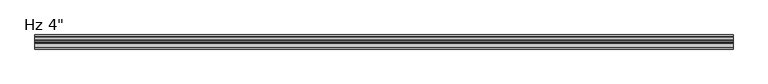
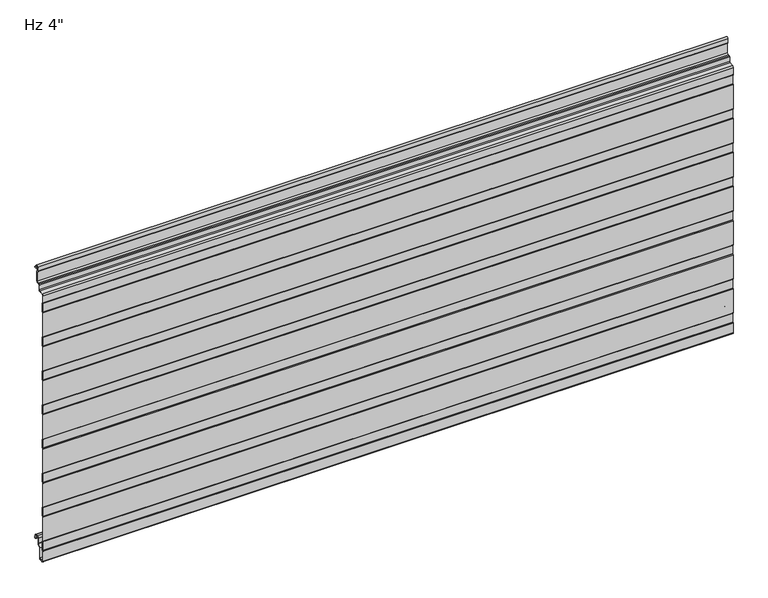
"""IFC4 building model written with IfcOpenShell, lengths in millimetres: plate geometry."""

import ifcopenshell
import ifcopenshell.guid

model = None  # the IFC model being written
_history = None  # IfcOwnerHistory: only IFC2X3 demands one
_inside = {}  # id of a spatial element -> (the spatial element, [elements in it])
_under = {}  # id of a project, library or spatial element -> (it, [spatial elements below it])
_declared = {}  # id of a project -> (the project, [libraries it declares])
_typed = {}  # id of a type object -> (the type object, [elements of that type])
_made_of = {}  # id of a material, layer set ... -> (it, [elements and type objects made of it])


def new_model(schema):
    """Start an empty IFC model of exactly this schema.

    Asked for "IFC4X3", IfcOpenShell would pick the latest addendum, in which some entities
    have other attributes; the version numbers below select the first issue.
    IFC2X3 requires an IfcOwnerHistory on every rooted entity: one is made here for all.
    """
    global model, _history
    if schema == "IFC4X3":
        model = ifcopenshell.file(schema_version=(4, 3, 0, 0))
    else:
        model = ifcopenshell.file(schema=schema)
    _inside.clear()
    _under.clear()
    _declared.clear()
    _typed.clear()
    _made_of.clear()
    _history = None
    if model.schema == "IFC2X3":
        org = make("IfcOrganization", Name="unknown")
        user = make(
            "IfcPersonAndOrganization",
            ThePerson=make("IfcPerson", FamilyName="unknown"),
            TheOrganization=org,
        )
        app = make(
            "IfcApplication",
            ApplicationDeveloper=org,
            Version="unknown",
            ApplicationFullName="unknown",
            ApplicationIdentifier="unknown",
        )
        _history = make(
            "IfcOwnerHistory",
            OwningUser=user,
            OwningApplication=app,
            ChangeAction="ADDED",
            CreationDate=0,
        )
    return model


def make(cls, **values):
    """One entity of the class cls with the attributes given. An attribute that is None is left unset."""
    return model.create_entity(
        cls, **{name: value for name, value in values.items() if value is not None}
    )


def rooted(cls, **values):
    """An entity with a GlobalId (a new one), such as an element, a storey or a relation."""
    return make(cls, GlobalId=ifcopenshell.guid.new(), OwnerHistory=_history, **values)


def si_unit(unit_type, name, prefix=None):
    """IfcSIUnit, for example si_unit("LENGTHUNIT", "METRE", prefix="MILLI")."""
    return make("IfcSIUnit", UnitType=unit_type, Prefix=prefix, Name=name)


def assignment(units):
    """IfcUnitAssignment: the units of a project."""
    return None if units is None else make("IfcUnitAssignment", Units=units)


def point(xyz):
    """IfcCartesianPoint."""
    return None if xyz is None else make("IfcCartesianPoint", Coordinates=xyz)


def direction(xyz):
    """IfcDirection."""
    return None if xyz is None else make("IfcDirection", DirectionRatios=xyz)


def frame(location, z_axis=None, x_axis=None):
    """IfcAxis2Placement3D, a coordinate frame: its origin and axes. An axis left out is left unset."""
    return make(
        "IfcAxis2Placement3D",
        Location=point(location),
        Axis=direction(z_axis),
        RefDirection=direction(x_axis),
    )


def frame_2d(location, x_axis=None):
    """IfcAxis2Placement2D, a coordinate frame in the plane: its origin and x axis."""
    return make(
        "IfcAxis2Placement2D", Location=point(location), RefDirection=direction(x_axis)
    )


def origin():
    """The frame at (0, 0, 0) with its axes left unset."""
    return frame((0.0, 0.0, 0.0))


def place(relative_to, where):
    """IfcLocalPlacement: puts the frame where relative to a parent placement (None: the world)."""
    return make(
        "IfcLocalPlacement", PlacementRelTo=relative_to, RelativePlacement=where
    )


def context(
    kind, dimensions, precision=None, world=None, true_north=None, identifier=None
):
    """IfcGeometricRepresentationContext, for example the 3D "Model" context."""
    return make(
        "IfcGeometricRepresentationContext",
        ContextIdentifier=identifier,
        ContextType=kind,
        CoordinateSpaceDimension=dimensions,
        Precision=precision,
        WorldCoordinateSystem=world,
        TrueNorth=true_north,
    )


def project(units=None, contexts=None):
    """IfcProject with its units and contexts."""
    return rooted(
        "IfcProject",
        Name="project",
        RepresentationContexts=contexts,
        UnitsInContext=assignment(units),
    )


def spatial(cls, under=None, at=None, **own):
    """A site, building, storey or space (cls), placed at a placement, below another one or the project."""
    s = rooted(cls, ObjectPlacement=at, **own)
    if under is not None:
        _under.setdefault(under.id(), (under, []))[1].append(s)
    return s


def polyline(points):
    """IfcPolyline through the points."""
    return make("IfcPolyline", Points=[point(p) for p in points])


def circle_curve(where, radius):
    """IfcCircle in the frame where."""
    return make("IfcCircle", Position=where, Radius=radius)


def trimmed(basis, trim1, trim2, sense, master):
    """IfcTrimmedCurve: the piece of a basis curve between two trims."""
    return make(
        "IfcTrimmedCurve",
        BasisCurve=basis,
        Trim1=trim1,
        Trim2=trim2,
        SenseAgreement=sense,
        MasterRepresentation=master,
    )


def segment(curve, same_sense, transition):
    """IfcCompositeCurveSegment."""
    return make(
        "IfcCompositeCurveSegment",
        Transition=transition,
        SameSense=same_sense,
        ParentCurve=curve,
    )


def composite_curve(segments, self_intersect=None):
    """IfcCompositeCurve: segments joined end to end."""
    return make("IfcCompositeCurve", Segments=segments, SelfIntersect=self_intersect)


def outline(outer, holes=None, kind="AREA"):
    """IfcArbitraryClosedProfileDef: a profile drawn as a closed curve; with holes, ...WithVoids."""
    if holes is None:
        return make("IfcArbitraryClosedProfileDef", ProfileType=kind, OuterCurve=outer)
    return make(
        "IfcArbitraryProfileDefWithVoids",
        ProfileType=kind,
        OuterCurve=outer,
        InnerCurves=holes,
    )


def extrude(swept, where, along, depth):
    """IfcExtrudedAreaSolid: the profile swept, set in the frame where, extruded along a direction by depth."""
    return make(
        "IfcExtrudedAreaSolid",
        SweptArea=swept,
        Position=where,
        ExtrudedDirection=direction(along),
        Depth=depth,
    )


def shape(context_of_items, identifier, shape_type, items):
    """IfcShapeRepresentation: the items that make up one representation, for example the "Body"."""
    return make(
        "IfcShapeRepresentation",
        ContextOfItems=context_of_items,
        RepresentationIdentifier=identifier,
        RepresentationType=shape_type,
        Items=items,
    )


def source(mapping_origin, context_of_items, identifier, shape_type, items):
    """IfcRepresentationMap: a shape defined once, which mapped items show again and again."""
    return make(
        "IfcRepresentationMap",
        MappingOrigin=mapping_origin,
        MappedRepresentation=shape(context_of_items, identifier, shape_type, items),
    )


def transform(
    local_origin,
    x_axis=None,
    y_axis=None,
    z_axis=None,
    scale=None,
    scale2=None,
    scale3=None,
    uniform=True,
):
    """IfcCartesianTransformationOperator3D, or its non-uniform kind. x_axis, y_axis, z_axis: its Axis1, 2, 3."""
    if uniform:
        return make(
            "IfcCartesianTransformationOperator3D",
            Axis1=direction(x_axis),
            Axis2=direction(y_axis),
            LocalOrigin=point(local_origin),
            Scale=scale,
            Axis3=direction(z_axis),
        )
    return make(
        "IfcCartesianTransformationOperator3DnonUniform",
        Axis1=direction(x_axis),
        Axis2=direction(y_axis),
        LocalOrigin=point(local_origin),
        Scale=scale,
        Axis3=direction(z_axis),
        Scale2=scale2,
        Scale3=scale3,
    )


def mapped(mapping_source, mapping_target):
    """IfcMappedItem: shows the shape of a source again, moved by a transform."""
    return make(
        "IfcMappedItem", MappingSource=mapping_source, MappingTarget=mapping_target
    )


def made_of(thing, what):
    """Note that an element or type object is made of a material, layer set ...; save() writes the relation."""
    if what is not None:
        _made_of.setdefault(what.id(), (what, []))[1].append(thing)
    return thing


def element(
    cls,
    number,
    at=None,
    inside=None,
    cuts=None,
    type_object=None,
    material=None,
    context=None,
    identifier="Body",
    shape_type=None,
    held_by="IfcProductDefinitionShape",
    body=None,
    shapes=None,
    **own,
):
    """One element of the class cls, such as IfcWall. Its Tag is "e" and its number.

    at: its placement. inside: the storey or other place that contains it. cuts: it is an
    opening in that element (IfcRelVoidsElement). A single representation is given by context,
    identifier, shape_type and body (its items); several are given by shapes. held_by: the class
    of the entity that holds the representations. save() writes the other relations.
    """
    e = rooted(cls, Tag="e%d" % number, ObjectPlacement=at, **own)
    if body is not None:
        shapes = [shape(context, identifier, shape_type, body)]
    if shapes is not None:
        e.Representation = make(held_by, Representations=shapes)
    if inside is not None:
        _inside.setdefault(inside.id(), (inside, []))[1].append(e)
    if cuts is not None:
        rooted(
            "IfcRelVoidsElement", RelatingBuildingElement=cuts, RelatedOpeningElement=e
        )
    if type_object is not None:
        _typed.setdefault(type_object.id(), (type_object, []))[1].append(e)
    return made_of(e, material)


def aggregate(whole, parts):
    """IfcRelAggregates: a whole, such as a stair, and the parts it consists of."""
    return rooted("IfcRelAggregates", RelatingObject=whole, RelatedObjects=parts)


def save(model, path):
    """Write the relations noted so far, then the file.

    IfcRelAggregates (storeys below a building ...), IfcRelContainedInSpatialStructure (elements
    in a storey), IfcRelDefinesByType, IfcRelAssociatesMaterial and IfcRelDeclares: one each for
    every whole, place, type object, material and project.
    """
    for whole, parts in _under.values():
        aggregate(whole, parts)
    for where, things in _inside.values():
        rooted(
            "IfcRelContainedInSpatialStructure",
            RelatedElements=things,
            RelatingStructure=where,
        )
    for kind, things in _typed.values():
        rooted("IfcRelDefinesByType", RelatedObjects=things, RelatingType=kind)
    for what, things in _made_of.values():
        rooted("IfcRelAssociatesMaterial", RelatedObjects=things, RelatingMaterial=what)
    for by, libraries in _declared.values():
        rooted("IfcRelDeclares", RelatingContext=by, RelatedDefinitions=libraries)
    model.write(path)


def plate_b8075c91(model_context):
    return source(origin(), model_context, "Body", "SweptSolid", [
        extrude(outline(composite_curve([segment(trimmed(circle_curve(frame_2d((-100.1998717, -10.6415934)), 1.3998661), [point((-101.5997378, -10.6415934))], [point((-101.1324955, -9.5976403))], False, "CARTESIAN"), True, "CONTINUOUS"), segment(polyline([(-101.1324955, -9.5976403), (-100.3997693, -8.8649141), (-100.3997693, 10.0260713), (-101.1327349, 10.7590369)]), True, "CONTINUOUS"), segment(trimmed(circle_curve(frame_2d((-100.2000237, 11.8030877)), 1.3999972), [point((-101.1327349, 10.7590369))], [point((-101.6, 11.810741))], False, "CARTESIAN"), True, "CONTINUOUS"), segment(polyline([(-101.6, 11.810741), (-101.6, 65.5582542)]), True, "CONTINUOUS"), segment(trimmed(circle_curve(frame_2d((-100.2000028, 65.5582542)), 1.3999972), [point((-101.6, 65.5582542))], [point((-101.132714, 66.602305))], False, "CARTESIAN"), True, "CONTINUOUS"), segment(polyline([(-101.132714, 66.602305), (-100.3997693, 67.3352497), (-100.3997693, 86.2259189), (-101.1327349, 86.9588845)]), True, "CONTINUOUS"), segment(trimmed(circle_curve(frame_2d((-100.2000237, 88.0029353)), 1.3999972), [point((-101.1327349, 86.9588845))], [point((-101.6, 88.0105886))], False, "CARTESIAN"), True, "CONTINUOUS"), segment(polyline([(-101.6, 88.0105886), (-101.6, 141.7581018)]), True, "CONTINUOUS"), segment(trimmed(circle_curve(frame_2d((-100.2000028, 141.7581018)), 1.3999972), [point((-101.6, 141.7581018))], [point((-101.132714, 142.8021526))], False, "CARTESIAN"), True, "CONTINUOUS"), segment(polyline([(-101.132714, 142.8021526), (-100.3997693, 143.5350973), (-100.3997693, 162.4257665), (-101.1327349, 163.1587321)]), True, "CONTINUOUS"), segment(trimmed(circle_curve(frame_2d((-100.2000237, 164.2027829)), 1.3999972), [point((-101.1327349, 163.1587321))], [point((-101.6, 164.2104362))], False, "CARTESIAN"), True, "CONTINUOUS"), segment(polyline([(-101.6, 164.2104362), (-101.6, 217.9579494)]), True, "CONTINUOUS"), segment(trimmed(circle_curve(frame_2d((-100.2000028, 217.9579494)), 1.3999972), [point((-101.6, 217.9579494))], [point((-101.132714, 219.0020002))], False, "CARTESIAN"), True, "CONTINUOUS"), segment(polyline([(-101.132714, 219.0020002), (-100.3997693, 219.7349449), (-100.3997693, 238.6256141), (-101.1327349, 239.3585797)]), True, "CONTINUOUS"), segment(trimmed(circle_curve(frame_2d((-100.2000237, 240.4026305)), 1.3999972), [point((-101.1327349, 239.3585797))], [point((-101.6, 240.4102838))], False, "CARTESIAN"), True, "CONTINUOUS"), segment(polyline([(-101.6, 240.4102838), (-101.6, 294.157797)]), True, "CONTINUOUS"), segment(trimmed(circle_curve(frame_2d((-100.2000028, 294.157797)), 1.3999972), [point((-101.6, 294.157797))], [point((-101.132714, 295.2018478))], False, "CARTESIAN"), True, "CONTINUOUS"), segment(polyline([(-101.132714, 295.2018478), (-100.3997693, 295.9347925), (-100.3997693, 314.8254617), (-101.1327349, 315.5584273)]), True, "CONTINUOUS"), segment(trimmed(circle_curve(frame_2d((-100.2000237, 316.6024781)), 1.3999972), [point((-101.1327349, 315.5584273))], [point((-101.6, 316.6101314))], False, "CARTESIAN"), True, "CONTINUOUS"), segment(polyline([(-101.6, 316.6101314), (-101.6, 370.3576446)]), True, "CONTINUOUS"), segment(trimmed(circle_curve(frame_2d((-100.2000028, 370.3576446)), 1.3999972), [point((-101.6, 370.3576446))], [point((-101.132714, 371.4016954))], False, "CARTESIAN"), True, "CONTINUOUS"), segment(polyline([(-101.132714, 371.4016954), (-100.3997693, 372.1346401), (-100.3997693, 391.0253093), (-101.1327349, 391.7582749)]), True, "CONTINUOUS"), segment(trimmed(circle_curve(frame_2d((-100.2000237, 392.8023257)), 1.3999972), [point((-101.1327349, 391.7582749))], [point((-101.6, 392.809979))], False, "CARTESIAN"), True, "CONTINUOUS"), segment(polyline([(-101.6, 392.809979), (-101.6, 446.5574922)]), True, "CONTINUOUS"), segment(trimmed(circle_curve(frame_2d((-100.2000028, 446.5574922)), 1.3999972), [point((-101.6, 446.5574922))], [point((-101.132714, 447.601543))], False, "CARTESIAN"), True, "CONTINUOUS"), segment(polyline([(-101.132714, 447.601543), (-100.3997693, 448.3344877), (-100.3997693, 467.2251569), (-101.1327349, 467.9581225)]), True, "CONTINUOUS"), segment(trimmed(circle_curve(frame_2d((-100.2000237, 469.0021733)), 1.3999972), [point((-101.1327349, 467.9581225))], [point((-101.6, 469.0098266))], False, "CARTESIAN"), True, "CONTINUOUS"), segment(polyline([(-101.6, 469.0098266), (-101.6, 522.7573398)]), True, "CONTINUOUS"), segment(trimmed(circle_curve(frame_2d((-100.2000028, 522.7573398)), 1.3999972), [point((-101.6, 522.7573398))], [point((-101.132714, 523.8013906))], False, "CARTESIAN"), True, "CONTINUOUS"), segment(polyline([(-101.132714, 523.8013906), (-100.3997693, 524.5343353), (-100.3997693, 543.4250045), (-101.1327349, 544.1579701)]), True, "CONTINUOUS"), segment(trimmed(circle_curve(frame_2d((-100.2000237, 545.2020209)), 1.3999972), [point((-101.1327349, 544.1579701))], [point((-101.5990984, 545.2528361))], False, "CARTESIAN"), True, "CONTINUOUS"), segment(polyline([(-101.5990984, 545.2528361), (-101.5990984, 561.1384359)]), True, "CONTINUOUS"), segment(trimmed(circle_curve(frame_2d((-98.6491043, 561.1384359)), 2.9499941), [point((-101.5990984, 561.1384359))], [point((-98.9062132, 564.0772044))], False, "CARTESIAN"), True, "CONTINUOUS"), segment(polyline([(-98.9062132, 564.0772044), (-90.4419168, 564.8177344)]), True, "CONTINUOUS"), segment(trimmed(circle_curve(frame_2d((-90.6188426, 566.8400056)), 2.0299959), [point((-90.4419168, 564.8177344))], [point((-88.5914567, 566.9429135))], True, "CARTESIAN"), True, "CONTINUOUS"), segment(polyline([(-88.5914567, 566.9429135), (-88.5914567, 577.0595941)]), True, "CONTINUOUS"), segment(trimmed(circle_curve(frame_2d((-86.6423033, 577.0595941)), 1.9491534), [point((-88.5914567, 577.0595941))], [point((-86.6423033, 579.0087475))], False, "CARTESIAN"), True, "CONTINUOUS"), segment(polyline([(-86.6423033, 579.0087475), (-83.5009036, 579.0087475)]), True, "CONTINUOUS"), segment(trimmed(circle_curve(frame_2d((-83.5009036, 582.0087415)), 2.999994), [point((-83.5009036, 579.0087475))], [point((-80.5009096, 582.0087415))], True, "CARTESIAN"), True, "CONTINUOUS"), segment(polyline([(-80.5009096, 582.0087415), (-80.5009096, 602.6122013), (-81.7467537, 603.3314897)]), True, "CONTINUOUS"), segment(trimmed(circle_curve(frame_2d((-81.0217552, 604.587224)), 1.4499971), [point((-81.7467537, 603.3314897))], [point((-82.4709833, 604.6344401))], False, "CARTESIAN"), True, "CONTINUOUS"), segment(polyline([(-82.4709833, 604.6344401), (-82.126075, 613.3463704)]), True, "CONTINUOUS"), segment(trimmed(circle_curve(frame_2d((-79.0266291, 613.2236622)), 3.1018739), [point((-82.126075, 613.3463704))], [point((-75.9275082, 613.3543204))], False, "CARTESIAN"), True, "CONTINUOUS"), segment(polyline([(-75.9275082, 613.3543204), (-75.6837214, 609.3587)]), True, "CONTINUOUS"), segment(trimmed(circle_curve(frame_2d((-74.8434917, 609.4099653)), 0.8417922), [point((-75.6837214, 609.3587))], [point((-74.8729389, 608.5686884))], True, "CARTESIAN"), True, "CONTINUOUS"), segment(polyline([(-74.8729389, 608.5686884), (-72.1025061, 608.5686884), (-72.1025061, 607.5686884), (-74.8870527, 607.5686884)]), True, "CONTINUOUS"), segment(trimmed(circle_curve(frame_2d((-74.8434917, 609.4099653)), 1.8417922), [point((-74.8870527, 607.5686884))], [point((-76.6818653, 609.2977997))], False, "CARTESIAN"), True, "CONTINUOUS"), segment(polyline([(-76.6818653, 609.2977997), (-76.9262802, 613.3037148)]), True, "CONTINUOUS"), segment(trimmed(circle_curve(frame_2d((-79.0266291, 613.2236622)), 2.1018739), [point((-76.9262802, 613.3037148))], [point((-81.1268578, 613.306811))], True, "CARTESIAN"), True, "CONTINUOUS"), segment(polyline([(-81.1268578, 613.306811), (-81.4821181, 604.3334028), (-79.5009096, 603.1895515), (-79.5009096, 582.0087415)]), True, "CONTINUOUS"), segment(trimmed(circle_curve(frame_2d((-83.5009036, 582.0087415)), 3.999994), [point((-79.5009096, 582.0087415))], [point((-83.5009036, 578.0087475))], False, "CARTESIAN"), True, "CONTINUOUS"), segment(polyline([(-83.5009036, 578.0087475), (-86.6423033, 578.0087475)]), True, "CONTINUOUS"), segment(trimmed(circle_curve(frame_2d((-86.6423033, 577.0595941)), 0.9491534), [point((-86.6423033, 578.0087475))], [point((-87.5914567, 577.0595941))], True, "CARTESIAN"), True, "CONTINUOUS"), segment(polyline([(-87.5914567, 577.0595941), (-87.5914567, 566.9657441)]), True, "CONTINUOUS"), segment(trimmed(circle_curve(frame_2d((-90.6188426, 566.8400056)), 3.0299959), [point((-87.5914567, 566.9657441))], [point((-90.354761, 563.8215397))], False, "CARTESIAN"), True, "CONTINUOUS"), segment(polyline([(-90.354761, 563.8215397), (-98.8190575, 563.0810097)]), True, "CONTINUOUS"), segment(trimmed(circle_curve(frame_2d((-98.6491043, 561.1384359)), 1.9499941), [point((-98.8190575, 563.0810097))], [point((-100.5990984, 561.1384359))], True, "CARTESIAN"), True, "CONTINUOUS"), segment(polyline([(-100.5990984, 561.1384359), (-100.5990984, 545.0396538), (-99.3997693, 543.8403247), (-99.3997693, 524.1209122), (-100.6, 522.9206815), (-100.6, 468.8405497), (-99.3997693, 467.640319), (-99.3997693, 447.9209065), (-100.6, 446.7206758), (-100.6, 392.640544), (-99.3997693, 391.4403133), (-99.3997693, 371.7209008), (-100.6, 370.5206701), (-100.6, 316.4405383), (-99.3997693, 315.2403076), (-99.3997693, 295.5208951), (-100.6, 294.3206644), (-100.6, 240.2405326), (-99.3997693, 239.0403019), (-99.3997693, 219.3208894), (-100.6, 218.1206587), (-100.6, 164.0405269), (-99.3997693, 162.8402962), (-99.3997693, 143.1208837), (-100.6, 141.920653), (-100.6, 87.8405213), (-99.3997693, 86.6402905), (-99.3997693, 66.920878), (-100.6, 65.7206473), (-100.6, 11.6405156), (-99.3997693, 10.4402849), (-99.3997693, -9.2791277), (-100.5997378, -10.4790962), (-100.5997378, -32.4521176)]), True, "CONTINUOUS"), segment(trimmed(circle_curve(frame_2d((-98.0294985, -32.4521176)), 2.5702393), [point((-100.5997378, -32.4521176))], [point((-97.8054129, -35.0125699))], True, "CARTESIAN"), True, "CONTINUOUS"), segment(polyline([(-97.8054129, -35.0125699), (-92.823592, -34.5765709)]), True, "CONTINUOUS"), segment(trimmed(circle_curve(frame_2d((-93.3049826, -31.9198392)), 2.6999926), [point((-92.823592, -34.5765709))], [point((-90.60499, -31.9198392))], True, "CARTESIAN"), True, "CONTINUOUS"), segment(polyline([(-90.60499, -31.9198392), (-90.60499, -9.8247096), (-85.1029189, -4.3226385)]), True, "CONTINUOUS"), segment(trimmed(circle_curve(frame_2d((-86.3049966, -3.1205608)), 1.6999946), [point((-85.1029189, -4.3226385))], [point((-84.605002, -3.1205608))], True, "CARTESIAN"), True, "CONTINUOUS"), segment(polyline([(-84.605002, -3.1205608), (-84.605002, 8.6903283)]), True, "CONTINUOUS"), segment(trimmed(circle_curve(frame_2d((-81.2550067, 8.6903283)), 3.3499953), [point((-84.605002, 8.6903283))], [point((-81.2550067, 12.0403236))], False, "CARTESIAN"), True, "CONTINUOUS"), segment(polyline([(-81.2550067, 12.0403236), (-76.8550155, 12.0403236)]), True, "CONTINUOUS"), segment(trimmed(circle_curve(frame_2d((-76.8550155, 8.6903283)), 3.3499953), [point((-76.8550155, 12.0403236))], [point((-73.5050202, 8.6903283))], False, "CARTESIAN"), True, "CONTINUOUS"), segment(polyline([(-73.5050202, 8.6903283), (-73.5050202, 5.9912173), (-72.1065413, 5.9912173), (-72.1065413, 2.2328239)]), True, "CONTINUOUS"), segment(trimmed(circle_curve(frame_2d((-73.306538, 2.2313092)), 1.1999976), [point((-72.1065413, 2.2328239))], [point((-73.2760161, 1.0316999))], False, "CARTESIAN"), True, "CONTINUOUS"), segment(trimmed(circle_curve(frame_2d((-73.306538, 2.2313092)), 1.1999976), [point((-73.2760161, 1.0316999))], [point((-74.5050202, 2.1710221))], False, "CARTESIAN"), True, "CONTINUOUS"), segment(polyline([(-74.5050202, 2.1710221), (-74.5050202, 8.6903283)]), True, "CONTINUOUS"), segment(trimmed(circle_curve(frame_2d((-76.8550155, 8.6903283)), 2.3499953), [point((-74.5050202, 8.6903283))], [point((-76.8550155, 11.0403236))], True, "CARTESIAN"), True, "CONTINUOUS"), segment(polyline([(-76.8550155, 11.0403236), (-81.2550067, 11.0403236)]), True, "CONTINUOUS"), segment(trimmed(circle_curve(frame_2d((-81.2550067, 8.6903283)), 2.3499953), [point((-81.2550067, 11.0403236))], [point((-83.605002, 8.6903283))], True, "CARTESIAN"), True, "CONTINUOUS"), segment(polyline([(-83.605002, 8.6903283), (-83.605002, -3.1205608)]), True, "CONTINUOUS"), segment(trimmed(circle_curve(frame_2d((-86.3049966, -3.1205608)), 2.6999946), [point((-83.605002, -3.1205608))], [point((-84.3958121, -5.0297453))], False, "CARTESIAN"), True, "CONTINUOUS"), segment(polyline([(-84.3958121, -5.0297453), (-89.2242296, -9.8581627)]), True, "CONTINUOUS"), segment(trimmed(circle_curve(frame_2d((-88.3049926, -10.7773997)), 1.2999974), [point((-89.2242296, -9.8581627))], [point((-89.60499, -10.7773997))], True, "CARTESIAN"), True, "CONTINUOUS"), segment(polyline([(-89.60499, -10.7773997), (-89.60499, -31.9198392)]), True, "CONTINUOUS"), segment(trimmed(circle_curve(frame_2d((-93.3049826, -31.9198392)), 3.6999926), [point((-89.60499, -31.9198392))], [point((-92.6941815, -35.5690675))], False, "CARTESIAN"), True, "CONTINUOUS"), segment(polyline([(-92.6941815, -35.5690675), (-97.7182281, -36.008762)]), True, "CONTINUOUS"), segment(trimmed(circle_curve(frame_2d((-98.0294985, -32.4521176)), 3.5702393), [point((-97.7182281, -36.008762))], [point((-101.5997378, -32.4521176))], False, "CARTESIAN"), True, "CONTINUOUS"), segment(polyline([(-101.5997378, -32.4521176), (-101.5997378, -10.6415934)]), True, "CONTINUOUS")], self_intersect=False)), frame((-730.0, 0.0, 0.0), z_axis=(1.0, 0.0, 0.0), x_axis=(0.0, 1.0, 0.0)), (0.0, 0.0, 1.0), 1460.0),
    ])


if __name__ == "__main__":
    model = new_model("IFC4")
    model_context = context("Model", 3, world=origin())
    ifc_project = project(units=[si_unit("LENGTHUNIT", "METRE", prefix="MILLI")], contexts=[model_context])
    site = spatial("IfcSite", under=ifc_project)
    building = spatial("IfcBuilding", under=site)
    placement = place(None, origin())
    plate_shape = plate_b8075c91(model_context)
    element("IfcPlate", 1, ObjectType="KIP-24-Karrier-KP-R19-CP-Hz-SL3-8in_SL : Hz 4\"", at=placement, inside=building, context=model_context, shape_type="MappedRepresentation", body=[
        mapped(plate_shape, transform((0.0, 0.0, 0.0), x_axis=(1.0, 0.0, 0.0), y_axis=(0.0, 1.0, 0.0), z_axis=(0.0, 0.0, 1.0))),
    ])
    save(model, "model.ifc")
